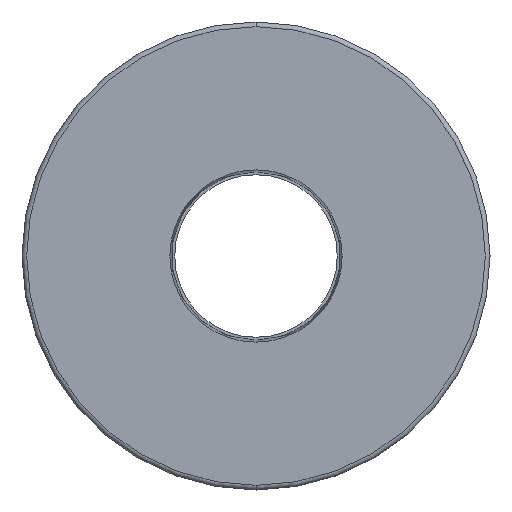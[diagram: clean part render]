
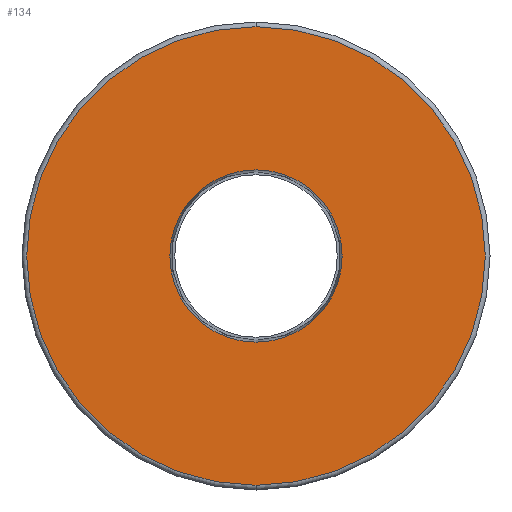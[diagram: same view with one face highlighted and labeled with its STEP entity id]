
A CAD part, front view. The second image highlights one B-rep face of the part: STEP entity #134.
In plain terms, the highlighted planar face has unit normal (0, -1, 0).
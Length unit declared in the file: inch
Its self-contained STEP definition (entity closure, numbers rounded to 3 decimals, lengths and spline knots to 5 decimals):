
#38 = DIRECTION ( 'NONE',  ( 0., 0., 1. ) ) ;
#48 = CARTESIAN_POINT ( 'NONE',  ( 0., 0., -0.91114 ) ) ;
#69 = EDGE_LOOP ( 'NONE', ( #306, #212 ) ) ;
#113 = CARTESIAN_POINT ( 'NONE',  ( 0., 0., 0. ) ) ;
#134 = ADVANCED_FACE ( 'NONE', ( #894, #704 ), #739, .F. ) ;
#136 = CARTESIAN_POINT ( 'NONE',  ( 0., 0., 0. ) ) ;
#163 = DIRECTION ( 'NONE',  ( 0., 1., 0. ) ) ;
#182 = DIRECTION ( 'NONE',  ( 0., 0., -1. ) ) ;
#206 = DIRECTION ( 'NONE',  ( 0., 0., -1. ) ) ;
#212 = ORIENTED_EDGE ( 'NONE', *, *, #808, .T. ) ;
#216 = VERTEX_POINT ( 'NONE', #234 ) ;
#234 = CARTESIAN_POINT ( 'NONE',  ( 0., 0., 2.425 ) ) ;
#250 = ORIENTED_EDGE ( 'NONE', *, *, #640, .F. ) ;
#267 = VERTEX_POINT ( 'NONE', #48 ) ;
#297 = DIRECTION ( 'NONE',  ( 0., -1., 0. ) ) ;
#306 = ORIENTED_EDGE ( 'NONE', *, *, #701, .T. ) ;
#332 = AXIS2_PLACEMENT_3D ( 'NONE', #113, #592, #182 ) ;
#360 = ORIENTED_EDGE ( 'NONE', *, *, #844, .F. ) ;
#361 = CIRCLE ( 'NONE', #400, 2.425 ) ;
#400 = AXIS2_PLACEMENT_3D ( 'NONE', #703, #297, #776 ) ;
#413 = EDGE_LOOP ( 'NONE', ( #250, #360 ) ) ;
#455 = DIRECTION ( 'NONE',  ( 0., -1., 0. ) ) ;
#501 = CARTESIAN_POINT ( 'NONE',  ( 0., 0., 0. ) ) ;
#517 = AXIS2_PLACEMENT_3D ( 'NONE', #136, #616, #206 ) ;
#522 = AXIS2_PLACEMENT_3D ( 'NONE', #876, #455, #38 ) ;
#592 = DIRECTION ( 'NONE',  ( 0., -1., 0. ) ) ;
#616 = DIRECTION ( 'NONE',  ( 0., -1., 0. ) ) ;
#626 = CIRCLE ( 'NONE', #522, 2.425 ) ;
#640 = EDGE_CURVE ( 'NONE', #267, #856, #826, .T. ) ;
#643 = DIRECTION ( 'NONE',  ( 0., 0., 1. ) ) ;
#666 = CARTESIAN_POINT ( 'NONE',  ( 0., 0., 0.91114 ) ) ;
#686 = AXIS2_PLACEMENT_3D ( 'NONE', #501, #163, #643 ) ;
#701 = EDGE_CURVE ( 'NONE', #216, #835, #626, .T. ) ;
#703 = CARTESIAN_POINT ( 'NONE',  ( 0., 0., 0. ) ) ;
#704 = FACE_BOUND ( 'NONE', #413, .T. ) ;
#724 = CARTESIAN_POINT ( 'NONE',  ( 0., 0., -2.425 ) ) ;
#739 = PLANE ( 'NONE',  #686 ) ;
#776 = DIRECTION ( 'NONE',  ( 0., 0., 1. ) ) ;
#808 = EDGE_CURVE ( 'NONE', #835, #216, #361, .T. ) ;
#826 = CIRCLE ( 'NONE', #517, 0.91114 ) ;
#835 = VERTEX_POINT ( 'NONE', #724 ) ;
#844 = EDGE_CURVE ( 'NONE', #856, #267, #861, .T. ) ;
#856 = VERTEX_POINT ( 'NONE', #666 ) ;
#861 = CIRCLE ( 'NONE', #332, 0.91114 ) ;
#876 = CARTESIAN_POINT ( 'NONE',  ( 0., 0., 0. ) ) ;
#894 = FACE_OUTER_BOUND ( 'NONE', #69, .T. ) ;
